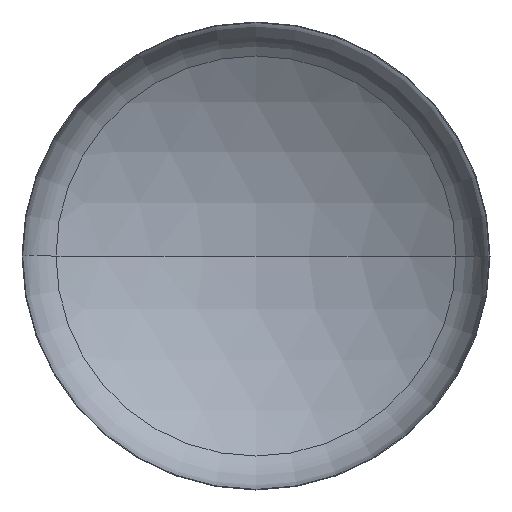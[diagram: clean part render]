
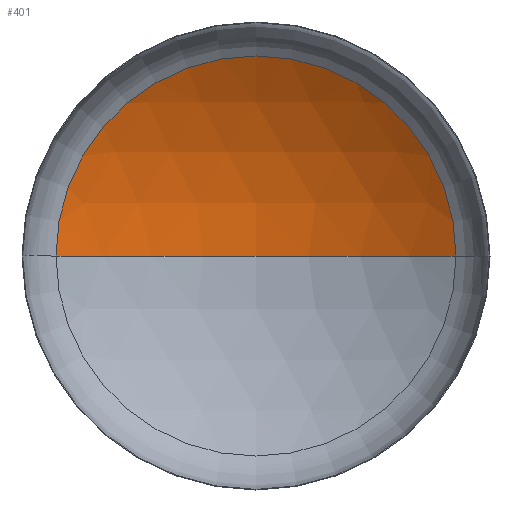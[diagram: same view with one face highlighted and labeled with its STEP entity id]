
A CAD part, front view. The second image highlights one B-rep face of the part: STEP entity #401.
In plain terms, the highlighted spherical face has radius 2560 mm.
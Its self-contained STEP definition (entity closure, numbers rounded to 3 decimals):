
#6 = ORIENTED_EDGE ( 'NONE', *, *, #229, .T. ) ;
#24 = AXIS2_PLACEMENT_3D ( 'NONE', #246, #242, #238 ) ;
#33 = EDGE_LOOP ( 'NONE', ( #56, #6, #397 ) ) ;
#46 = VERTEX_POINT ( 'NONE', #315 ) ;
#48 = AXIS2_PLACEMENT_3D ( 'NONE', #121, #118, #109 ) ;
#56 = ORIENTED_EDGE ( 'NONE', *, *, #211, .F. ) ;
#66 = CARTESIAN_POINT ( 'NONE',  ( 0., 830.239, 0. ) ) ;
#78 = CARTESIAN_POINT ( 'NONE',  ( 0., 434.195, 0. ) ) ;
#95 = AXIS2_PLACEMENT_3D ( 'NONE', #78, #127, #101 ) ;
#101 = DIRECTION ( 'NONE',  ( 1., 0., 0. ) ) ;
#109 = DIRECTION ( 'NONE',  ( -1., 0., 0. ) ) ;
#112 = DIRECTION ( 'NONE',  ( 0., 0., 1. ) ) ;
#114 = VERTEX_POINT ( 'NONE', #263 ) ;
#118 = DIRECTION ( 'NONE',  ( 0., 0., -1. ) ) ;
#121 = CARTESIAN_POINT ( 'NONE',  ( 0., -1729.761, 0. ) ) ;
#127 = DIRECTION ( 'NONE',  ( 0., -1., 0. ) ) ;
#142 = DIRECTION ( 'NONE',  ( 1., 0., 0. ) ) ;
#145 = CIRCLE ( 'NONE', #24, 2560. ) ;
#211 = EDGE_CURVE ( 'NONE', #245, #114, #364, .T. ) ;
#229 = EDGE_CURVE ( 'NONE', #245, #46, #145, .T. ) ;
#238 = DIRECTION ( 'NONE',  ( -1., 0., 0. ) ) ;
#242 = DIRECTION ( 'NONE',  ( 0., 0., -1. ) ) ;
#243 = EDGE_CURVE ( 'NONE', #46, #114, #410, .T. ) ;
#245 = VERTEX_POINT ( 'NONE', #66 ) ;
#246 = CARTESIAN_POINT ( 'NONE',  ( 0., -1729.761, 0. ) ) ;
#263 = CARTESIAN_POINT ( 'NONE',  ( -1367.807, 434.195, 0. ) ) ;
#264 = FACE_OUTER_BOUND ( 'NONE', #33, .T. ) ;
#315 = CARTESIAN_POINT ( 'NONE',  ( 1367.807, 434.195, 0. ) ) ;
#332 = SPHERICAL_SURFACE ( 'NONE', #48, 2560. ) ;
#364 = CIRCLE ( 'NONE', #393, 2560. ) ;
#391 = CARTESIAN_POINT ( 'NONE',  ( 0., -1729.761, 0. ) ) ;
#393 = AXIS2_PLACEMENT_3D ( 'NONE', #391, #112, #142 ) ;
#397 = ORIENTED_EDGE ( 'NONE', *, *, #243, .T. ) ;
#401 = ADVANCED_FACE ( 'NONE', ( #264 ), #332, .F. ) ;
#410 = CIRCLE ( 'NONE', #95, 1367.807 ) ;
